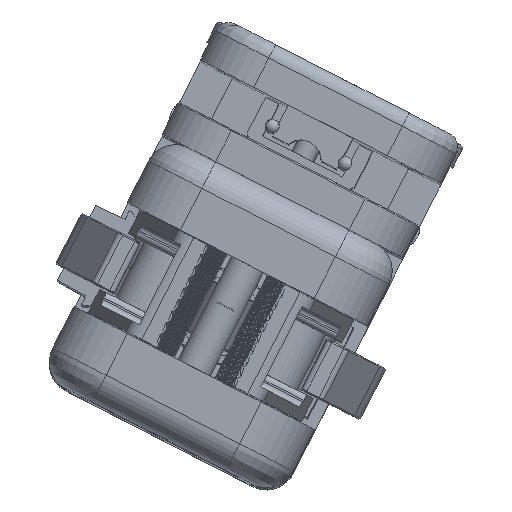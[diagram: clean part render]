
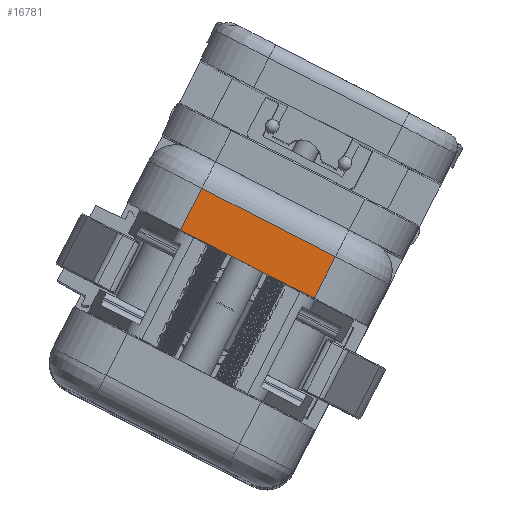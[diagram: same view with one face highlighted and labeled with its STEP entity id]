
A CAD part, top view. The second image highlights one B-rep face of the part: STEP entity #16781.
In plain terms, the highlighted planar face has unit normal (0, 0, 1).
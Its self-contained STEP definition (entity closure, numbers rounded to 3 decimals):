
#772=LINE('',#45114,#2712);
#781=LINE('',#45155,#2721);
#783=LINE('',#45158,#2723);
#784=LINE('',#45160,#2724);
#2712=VECTOR('',#37951,1.);
#2721=VECTOR('',#37996,1.);
#2723=VECTOR('',#38000,1.);
#2724=VECTOR('',#38001,1.);
#4537=FACE_OUTER_BOUND('',#20749,.T.);
#15736=PLANE('',#34175);
#16781=ADVANCED_FACE('',(#4537),#15736,.F.);
#20749=EDGE_LOOP('',(#23937,#23938,#23939,#23940));
#23937=ORIENTED_EDGE('',*,*,#31320,.F.);
#23938=ORIENTED_EDGE('',*,*,#31297,.T.);
#23939=ORIENTED_EDGE('',*,*,#31318,.F.);
#23940=ORIENTED_EDGE('',*,*,#31321,.F.);
#28930=VERTEX_POINT('',#45113);
#28931=VERTEX_POINT('',#45115);
#28943=VERTEX_POINT('',#45153);
#28945=VERTEX_POINT('',#45159);
#31297=EDGE_CURVE('',#28931,#28930,#772,.T.);
#31318=EDGE_CURVE('',#28943,#28930,#781,.T.);
#31320=EDGE_CURVE('',#28931,#28945,#783,.T.);
#31321=EDGE_CURVE('',#28945,#28943,#784,.T.);
#34175=AXIS2_PLACEMENT_3D('',#45161,#38002,#38003);
#37951=DIRECTION('',(0.89,-0.456,0.));
#37996=DIRECTION('',(-0.456,-0.89,0.));
#38000=DIRECTION('',(0.456,0.89,0.));
#38001=DIRECTION('',(0.89,-0.456,0.));
#38002=DIRECTION('',(0.,0.,-1.));
#38003=DIRECTION('',(-0.89,0.456,0.));
#45113=CARTESIAN_POINT('',(15.547,2.936,349.));
#45114=CARTESIAN_POINT('',(4.421,8.634,349.));
#45115=CARTESIAN_POINT('',(-6.704,14.331,349.));
#45153=CARTESIAN_POINT('',(19.103,9.878,349.));
#45155=CARTESIAN_POINT('',(21.382,14.329,349.));
#45158=CARTESIAN_POINT('',(-0.87,25.724,349.));
#45159=CARTESIAN_POINT('',(-3.149,21.274,349.));
#45160=CARTESIAN_POINT('',(7.977,15.576,349.));
#45161=CARTESIAN_POINT('',(30.283,9.771,349.));
